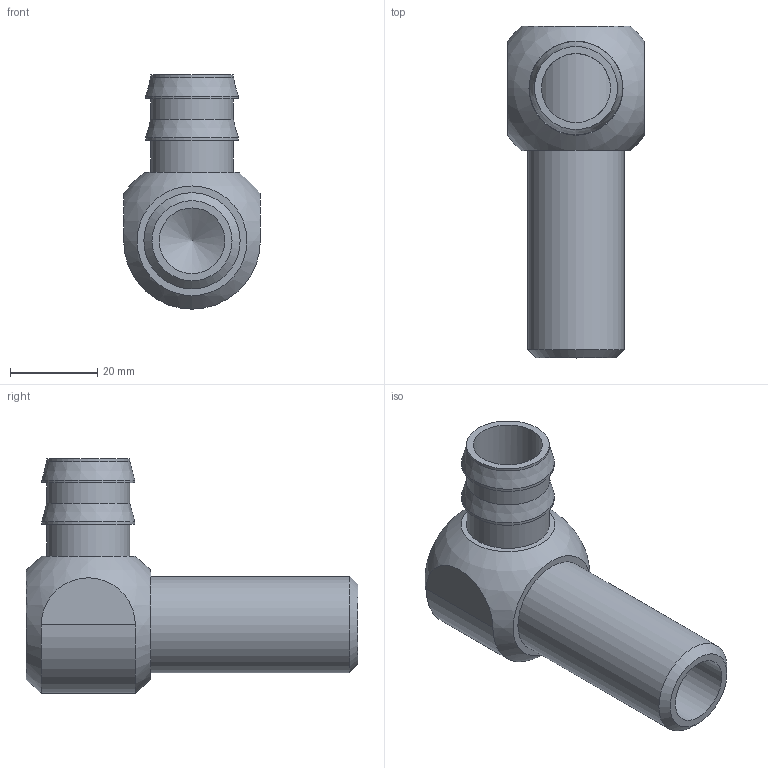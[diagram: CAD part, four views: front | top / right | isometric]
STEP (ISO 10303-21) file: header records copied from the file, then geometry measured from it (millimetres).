
FILE_DESCRIPTION(/* description */ (''),/* implementation_level */ '2;1');
FILE_NAME(/* name */ 'C:/Users/drich/Desktop/WJ50-M v1.step',/* time_stamp */ '2019-12-29T15:38:29-06:00',/* author */ (''),/* organization */ (''),/* preprocessor_version */ 'ST-DEVELOPER v18',/* originating_system */ 'Autodesk Translation Framework v8.12.0.6',/* authorisation */ '');
FILE_SCHEMA (('AUTOMOTIVE_DESIGN { 1 0 10303 214 3 1 1 }'));
Length unit declared in the file: inch
Products named in the file (2): WJ50-M; WJ50-M SHAFT
Assembly tree (1 placements, depth 2):
  WJ50-M
    WJ50-M SHAFT
Bounding box: 31.39 x 76.2 x 53.8 mm (x, y, z)
Volume: 34921.7 mm3; surface area: 15716.5 mm2
Topology: 2 solids, 2 shells, 34 faces, 84 edges, 61 vertices
Faces by surface type: plane 18, cylinder 11, cone 4, sphere 1
Full cylindrical faces by diameter (mm): 15.062 x1, 15.85 x1, 19.05 x3, 21.336 x3, 21.463 x1, 22.095 x1
Entity records: 1159 total; most frequent: CARTESIAN_POINT 223, DIRECTION 202, ORIENTED_EDGE 166, AXIS2_PLACEMENT_3D 84, EDGE_CURVE 83, VERTEX_POINT 61, CIRCLE 47, EDGE_LOOP 46
